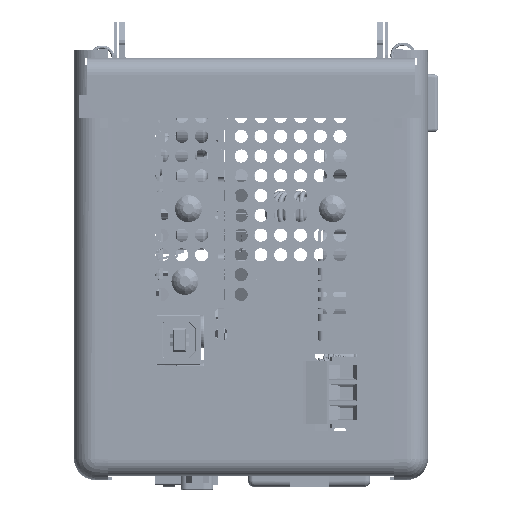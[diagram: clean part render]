
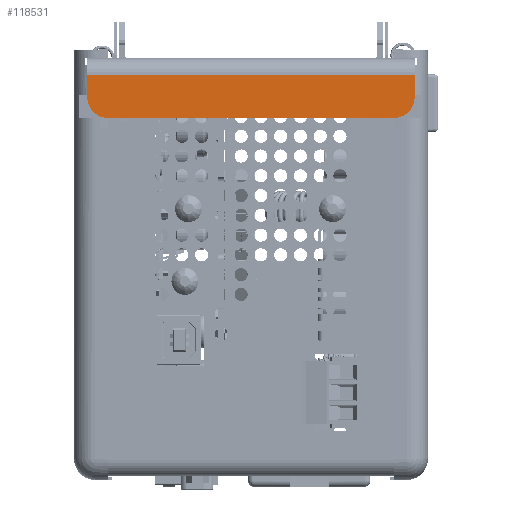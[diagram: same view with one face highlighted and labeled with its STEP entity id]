
A CAD part, left-side view. The second image highlights one B-rep face of the part: STEP entity #118531.
In plain terms, the highlighted planar face has unit normal (-1, 0, 0) as drawn and (0, 0, 1) by its records, which use the part's own axes.
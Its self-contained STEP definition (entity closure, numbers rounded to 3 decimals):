
#118531 = ADVANCED_FACE( '', ( #263281 ), #263282, .F. );
#263281 = FACE_OUTER_BOUND( '', #447987, .T. );
#263282 = PLANE( '', #447988 );
#447987 = EDGE_LOOP( '', ( #717833, #717834, #717835, #717836, #717837, #717838 ) );
#447988 = AXIS2_PLACEMENT_3D( '', #717839, #717840, #717841 );
#717833 = ORIENTED_EDGE( '', *, *, #994216, .T. );
#717834 = ORIENTED_EDGE( '', *, *, #994217, .T. );
#717835 = ORIENTED_EDGE( '', *, *, #927246, .F. );
#717836 = ORIENTED_EDGE( '', *, *, #994218, .T. );
#717837 = ORIENTED_EDGE( '', *, *, #964243, .F. );
#717838 = ORIENTED_EDGE( '', *, *, #994219, .T. );
#717839 = CARTESIAN_POINT( '', ( 0., 39.434, 58.747 ) );
#717840 = DIRECTION( '', ( 0., 0., -1. ) );
#717841 = DIRECTION( '', ( -1., 0., 0. ) );
#927246 = EDGE_CURVE( '', #1043265, #1043266, #1043267, .T. );
#964243 = EDGE_CURVE( '', #1104959, #1104960, #1104961, .T. );
#994216 = EDGE_CURVE( '', #1148879, #1148880, #1148881, .T. );
#994217 = EDGE_CURVE( '', #1148880, #1043266, #1148882, .F. );
#994218 = EDGE_CURVE( '', #1043265, #1104960, #1148883, .F. );
#994219 = EDGE_CURVE( '', #1104959, #1148879, #1148884, .T. );
#1043265 = VERTEX_POINT( '', #1207806 );
#1043266 = VERTEX_POINT( '', #1207807 );
#1043267 = LINE( '', #1207808, #1207809 );
#1104959 = VERTEX_POINT( '', #1297582 );
#1104960 = VERTEX_POINT( '', #1297583 );
#1104961 = LINE( '', #1297584, #1297585 );
#1148879 = VERTEX_POINT( '', #1362145 );
#1148880 = VERTEX_POINT( '', #1362146 );
#1148881 = LINE( '', #1362147, #1362148 );
#1148882 = CIRCLE( '', #1362149, 5.08 );
#1148883 = CIRCLE( '', #1362150, 5.08 );
#1148884 = LINE( '', #1362151, #1362152 );
#1207806 = CARTESIAN_POINT( '', ( 14.415, 34.354, 58.747 ) );
#1207807 = CARTESIAN_POINT( '', ( 14.415, -34.354, 58.747 ) );
#1207808 = CARTESIAN_POINT( '', ( 14.415, 39.434, 58.747 ) );
#1207809 = VECTOR( '', #1442559, 1000. );
#1297582 = CARTESIAN_POINT( '', ( 4.064, 39.434, 58.747 ) );
#1297583 = CARTESIAN_POINT( '', ( 9.335, 39.434, 58.747 ) );
#1297584 = CARTESIAN_POINT( '', ( 0., 39.434, 58.747 ) );
#1297585 = VECTOR( '', #1480780, 1000. );
#1362145 = CARTESIAN_POINT( '', ( 4.064, -39.434, 58.747 ) );
#1362146 = CARTESIAN_POINT( '', ( 9.335, -39.434, 58.747 ) );
#1362147 = CARTESIAN_POINT( '', ( 0., -39.434, 58.747 ) );
#1362148 = VECTOR( '', #1510106, 1000. );
#1362149 = AXIS2_PLACEMENT_3D( '', #1510107, #1510108, #1510109 );
#1362150 = AXIS2_PLACEMENT_3D( '', #1510110, #1510111, #1510112 );
#1362151 = CARTESIAN_POINT( '', ( 4.064, 39.434, 58.747 ) );
#1362152 = VECTOR( '', #1510113, 1000. );
#1442559 = DIRECTION( '', ( 0., -1., 0. ) );
#1480780 = DIRECTION( '', ( 1., 0., 0. ) );
#1510106 = DIRECTION( '', ( 1., 0., 0. ) );
#1510107 = CARTESIAN_POINT( '', ( 9.335, -34.354, 58.747 ) );
#1510108 = DIRECTION( '', ( 0., 0., -1. ) );
#1510109 = DIRECTION( '', ( -1., 0., 0. ) );
#1510110 = CARTESIAN_POINT( '', ( 9.335, 34.354, 58.747 ) );
#1510111 = DIRECTION( '', ( 0., 0., -1. ) );
#1510112 = DIRECTION( '', ( -1., 0., 0. ) );
#1510113 = DIRECTION( '', ( 0., -1., 0. ) );
